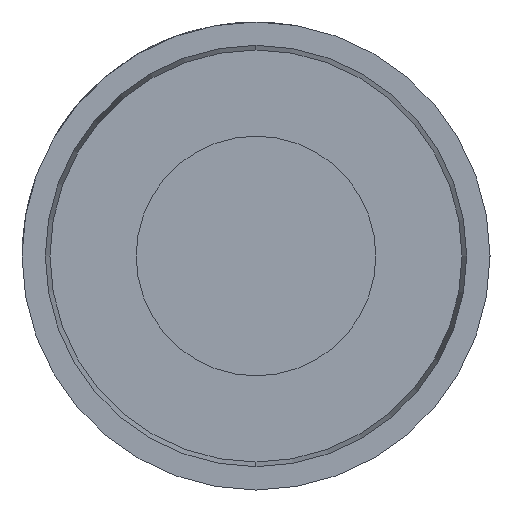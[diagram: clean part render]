
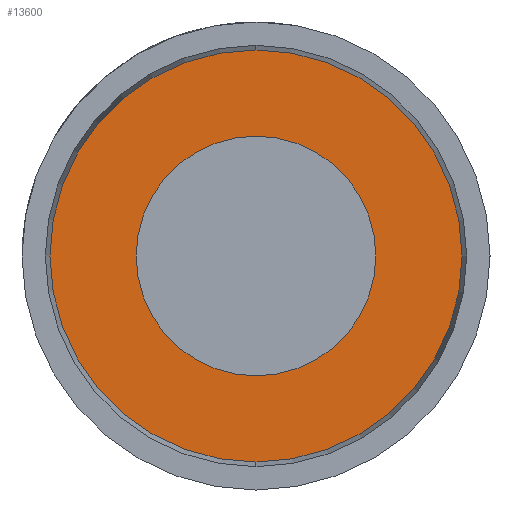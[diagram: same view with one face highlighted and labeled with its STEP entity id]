
A CAD part, left-side view. The second image highlights one B-rep face of the part: STEP entity #13600.
In plain terms, the highlighted planar face has unit normal (-1, 0, 0).
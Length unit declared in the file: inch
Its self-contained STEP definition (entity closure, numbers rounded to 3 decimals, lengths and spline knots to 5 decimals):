
#29 = CARTESIAN_POINT ( 'NONE',  ( 0., 0., 0.0825 ) ) ;
#692 = EDGE_CURVE ( 'NONE', #12600, #1255, #15773, .T. ) ;
#1255 = VERTEX_POINT ( 'NONE', #16076 ) ;
#4368 = AXIS2_PLACEMENT_3D ( 'NONE', #22168, #18196, #8341 ) ;
#5014 = DIRECTION ( 'NONE',  ( 0., 0., 1. ) ) ;
#5285 = AXIS2_PLACEMENT_3D ( 'NONE', #17397, #7674, #15478 ) ;
#5292 = ORIENTED_EDGE ( 'NONE', *, *, #15420, .T. ) ;
#5490 = CARTESIAN_POINT ( 'NONE',  ( 0., 0., -0.0825 ) ) ;
#6137 = EDGE_LOOP ( 'NONE', ( #5292, #18903 ) ) ;
#6216 = EDGE_CURVE ( 'NONE', #7423, #10118, #7790, .T. ) ;
#6396 = CARTESIAN_POINT ( 'NONE',  ( 0., 0., 0. ) ) ;
#6894 = CIRCLE ( 'NONE', #5285, 0.048 ) ;
#7423 = VERTEX_POINT ( 'NONE', #5490 ) ;
#7674 = DIRECTION ( 'NONE',  ( -1., 0., 0. ) ) ;
#7790 = CIRCLE ( 'NONE', #10233, 0.0825 ) ;
#8081 = ORIENTED_EDGE ( 'NONE', *, *, #14795, .F. ) ;
#8207 = FACE_BOUND ( 'NONE', #17782, .T. ) ;
#8341 = DIRECTION ( 'NONE',  ( 0., 0., 1. ) ) ;
#8552 = AXIS2_PLACEMENT_3D ( 'NONE', #22537, #24452, #5014 ) ;
#10118 = VERTEX_POINT ( 'NONE', #29 ) ;
#10233 = AXIS2_PLACEMENT_3D ( 'NONE', #10271, #18079, #18582 ) ;
#10271 = CARTESIAN_POINT ( 'NONE',  ( 0., 0., 0. ) ) ;
#11344 = CARTESIAN_POINT ( 'NONE',  ( 0., 0., 0.048 ) ) ;
#12234 = CIRCLE ( 'NONE', #8552, 0.0825 ) ;
#12600 = VERTEX_POINT ( 'NONE', #11344 ) ;
#13600 = ADVANCED_FACE ( 'NONE', ( #8207, #23692 ), #16385, .F. ) ;
#14311 = ORIENTED_EDGE ( 'NONE', *, *, #692, .F. ) ;
#14458 = DIRECTION ( 'NONE',  ( 0., 0., -1. ) ) ;
#14795 = EDGE_CURVE ( 'NONE', #1255, #12600, #6894, .T. ) ;
#15420 = EDGE_CURVE ( 'NONE', #10118, #7423, #12234, .T. ) ;
#15478 = DIRECTION ( 'NONE',  ( 0., 0., 1. ) ) ;
#15773 = CIRCLE ( 'NONE', #4368, 0.048 ) ;
#16076 = CARTESIAN_POINT ( 'NONE',  ( 0., 0., -0.048 ) ) ;
#16385 = PLANE ( 'NONE',  #17419 ) ;
#17397 = CARTESIAN_POINT ( 'NONE',  ( 0., 0., 0. ) ) ;
#17419 = AXIS2_PLACEMENT_3D ( 'NONE', #6396, #17803, #14458 ) ;
#17782 = EDGE_LOOP ( 'NONE', ( #14311, #8081 ) ) ;
#17803 = DIRECTION ( 'NONE',  ( 1., 0., 0. ) ) ;
#18079 = DIRECTION ( 'NONE',  ( -1., 0., 0. ) ) ;
#18196 = DIRECTION ( 'NONE',  ( -1., 0., 0. ) ) ;
#18582 = DIRECTION ( 'NONE',  ( 0., 0., 1. ) ) ;
#18903 = ORIENTED_EDGE ( 'NONE', *, *, #6216, .T. ) ;
#22168 = CARTESIAN_POINT ( 'NONE',  ( 0., 0., 0. ) ) ;
#22537 = CARTESIAN_POINT ( 'NONE',  ( 0., 0., 0. ) ) ;
#23692 = FACE_OUTER_BOUND ( 'NONE', #6137, .T. ) ;
#24452 = DIRECTION ( 'NONE',  ( -1., 0., 0. ) ) ;
